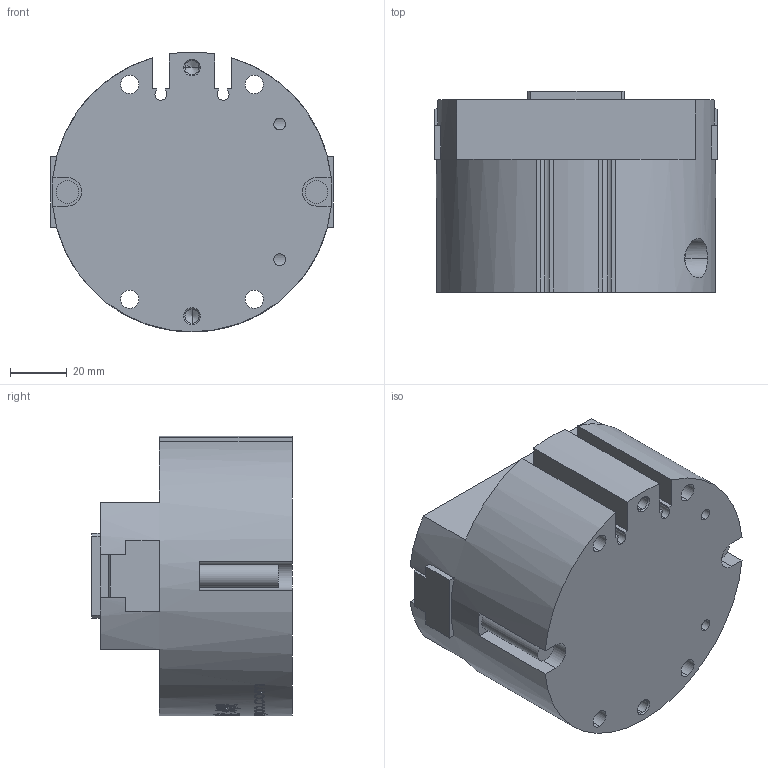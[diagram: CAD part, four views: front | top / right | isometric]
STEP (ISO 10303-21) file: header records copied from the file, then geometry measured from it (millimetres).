
FILE_DESCRIPTION (( 'STEP AP203' ), '1' );
FILE_NAME ('OPM-100-C1-原始檔-組合-W106.04.18.STEP', '2017-04-18T06:45:27', ( 'DanyaoCAD' ), ( '' ), 'SwSTEP 2.0', 'SolidWorks 2016', '' );
FILE_SCHEMA (( 'CONFIG_CONTROL_DESIGN' ));
Length unit declared in the file: millimetre
Products named in the file (3): Griffa; Corpo; OPM-100-C1-原始檔-組合-W106.04.18
Assembly tree (3 placements, depth 2):
  OPM-100-C1-原始檔-組合-W106.04.18
    Griffa  x2
    Corpo
Bounding box: 100 x 71 x 98.93 mm (x, y, z)
Volume: 438718.3 mm3; surface area: 63395.7 mm2
Topology: 3 solids, 3 shells, 951 faces, 2659 edges, 1766 vertices
Faces by surface type: bspline 665, plane 177, cylinder 97, cone 12
Entity records: 98283 total; most frequent: CARTESIAN_POINT 80109, ORIENTED_EDGE 5158, EDGE_CURVE 2579, B_SPLINE_CURVE_WITH_KNOTS 2042, VERTEX_POINT 1716, DIRECTION 1221, EDGE_LOOP 987, ADVANCED_FACE 920
